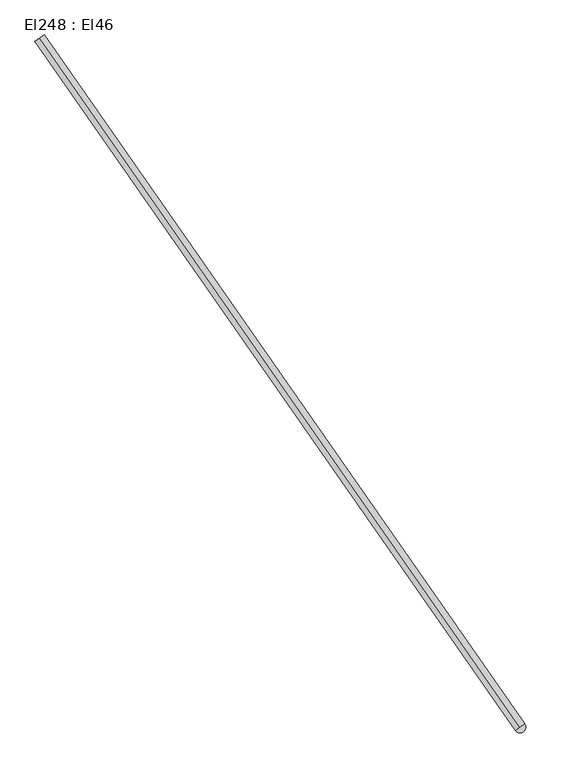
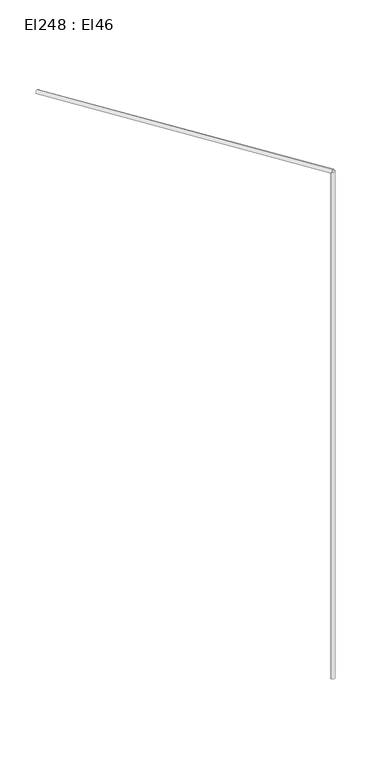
"""IFC4 building model written with IfcOpenShell, lengths in millimetres: cable carrier segment geometry, El248 : El46."""

from ifc_helpers import new_model, si_unit, point, frame, frame_2d, origin, place, context, project, spatial, circle_curve, trimmed, segment, composite_curve, outline, extrude, source, transform, mapped, element, save


def el248_el46_3d92df67(model_context):
    return source(origin(), model_context, "Body", "SweptSolid", [
        extrude(outline(composite_curve([segment(trimmed(circle_curve(frame_2d((11714.4866511, 8975.6021745)), 9.5), [point((11704.9866511, 8975.6021745))], [point((11723.9866511, 8975.6021745))], False, "CARTESIAN"), True, "CONTINUOUS"), segment(trimmed(circle_curve(frame_2d((11714.4866511, 8975.6021745)), 9.5), [point((11723.9866511, 8975.6021745))], [point((11704.9866511, 8975.6021745))], False, "CARTESIAN"), True, "CONTINUOUS")], self_intersect=False)), frame((0.0, 0.0, 1830.0), z_axis=(0.0, 0.0, 1.0), x_axis=(1.0, 0.0, 0.0)), (0.0, 0.0, 1.0), 2620.0),
        extrude(outline(composite_curve([segment(trimmed(circle_curve(frame_2d((0.0, -9.5)), 9.5), [point((0.0, -19.0))], [point((0.0, 0.0))], False, "CARTESIAN"), True, "CONTINUOUS"), segment(trimmed(circle_curve(frame_2d((0.0, -9.5)), 9.5), [point((0.0, 0.0))], [point((0.0, -19.0))], False, "CARTESIAN"), True, "CONTINUOUS")], self_intersect=False)), frame((11714.4858526, 8975.6031648, 4459.5), z_axis=(-0.5719179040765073, 0.820310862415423, 0.0), x_axis=(-0.820310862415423, -0.5719179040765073, 0.0)), (0.0, 0.0, 1.0), 1387.14),
    ])


if __name__ == "__main__":
    model = new_model("IFC4")
    model_context = context("Model", 3, world=origin())
    ifc_project = project(units=[si_unit("LENGTHUNIT", "METRE", prefix="MILLI")], contexts=[model_context])
    site = spatial("IfcSite", under=ifc_project)
    building = spatial("IfcBuilding", under=site)
    placement = place(None, origin())
    el248_el46_shape = el248_el46_3d92df67(model_context)
    element("IfcCableCarrierSegment", 1, ObjectType="El248 : El46", at=placement, inside=building, context=model_context, shape_type="MappedRepresentation", body=[
        mapped(el248_el46_shape, transform((0.0, 0.0, 0.0), x_axis=(1.0, 0.0, 0.0), y_axis=(0.0, 1.0, 0.0), z_axis=(0.0, 0.0, 1.0))),
    ])
    save(model, "model.ifc")
